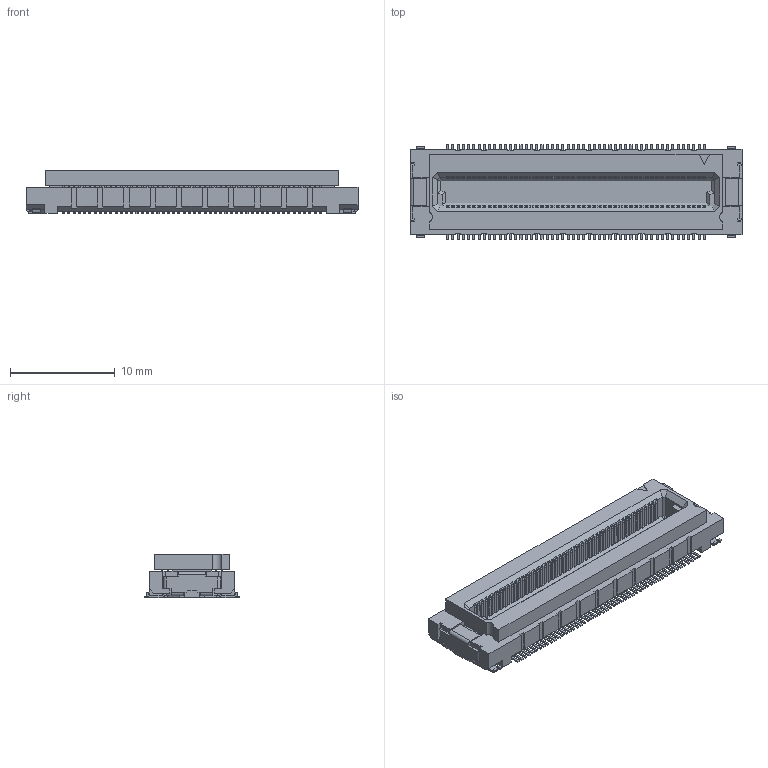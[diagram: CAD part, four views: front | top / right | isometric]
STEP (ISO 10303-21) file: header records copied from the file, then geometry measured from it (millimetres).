
FILE_DESCRIPTION(('Creo Elements/Direct Modeling STEP Export'),'2;1');
FILE_NAME('P3C035_DY04-100S-BT.stp','2022-02-28T 9:44:14',(''),(''),'Creo Elements/Direct Modeling STEP processor for AP214 (Solid Model)','Creo Elements/Direct Modeling 20.4A 18-Oct-2021 (C) Parametric Technology GmbH','');
FILE_SCHEMA(('AUTOMOTIVE_DESIGN { 1 0 10303 214 1 1 1 1 }'));
Products named in the file (2): P3C035_DY04-100S-BT
Assembly tree (1 placements, depth 2):
  P3C035_DY04-100S-BT
    P3C035_DY04-100S-BT
Bounding box: 31.7 x 9 x 4.2 mm (x, y, z)
Volume: 664.6 mm3; surface area: 1513.9 mm2
Topology: 1 solids, 1 shells, 4261 faces, 11947 edges, 7890 vertices
Faces by surface type: plane 3816, cylinder 445
Entity records: 133543 total; most frequent: ORIENTED_EDGE 23894, CARTESIAN_POINT 23603, DIRECTION 20753, EDGE_CURVE 11947, VECTOR 10673, LINE 10673, VERTEX_POINT 7890, AXIS2_PLACEMENT_3D 5040
